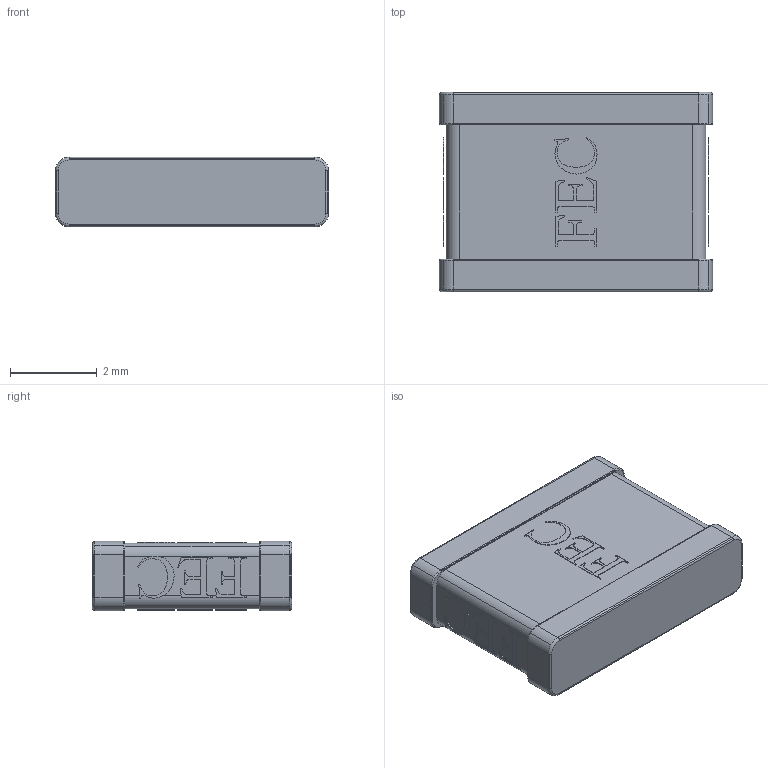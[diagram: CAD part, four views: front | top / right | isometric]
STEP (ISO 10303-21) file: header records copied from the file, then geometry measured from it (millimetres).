
FILE_DESCRIPTION(('STEP AP214'),'1');
FILE_NAME('tmp0.step','2023-08-07T01:16:49',(' '),(' '),'Spatial InterOp 3D',' ',' ');
FILE_SCHEMA(('AUTOMOTIVE_DESIGN { 1 0 10303 214 1 1 1 1 }'));
Length unit declared in the file: millimetre
Products named in the file (1): 1
Bounding box: 6.3 x 4.6 x 1.6 mm (x, y, z)
Volume: 43 mm3; surface area: 130.3 mm2
Topology: 15 solids, 15 shells, 1102 faces, 3184 edges, 2112 vertices
Faces by surface type: plane 1030, cylinder 56, torus 16
Entity records: 35714 total; most frequent: CARTESIAN_POINT 6413, ORIENTED_EDGE 6368, DIRECTION 5546, EDGE_CURVE 3184, LINE 3056, VECTOR 3056, VERTEX_POINT 2112, AXIS2_PLACEMENT_3D 1245
